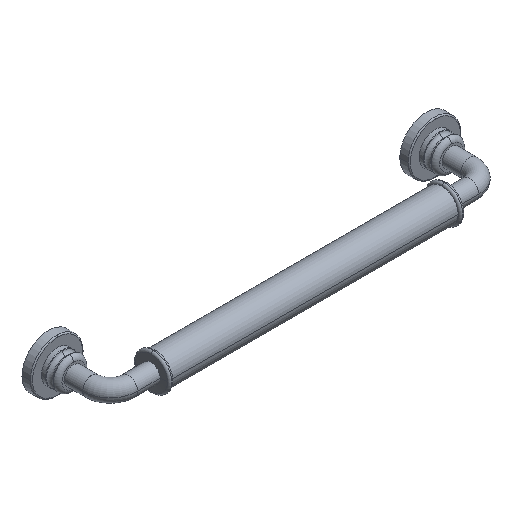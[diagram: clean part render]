
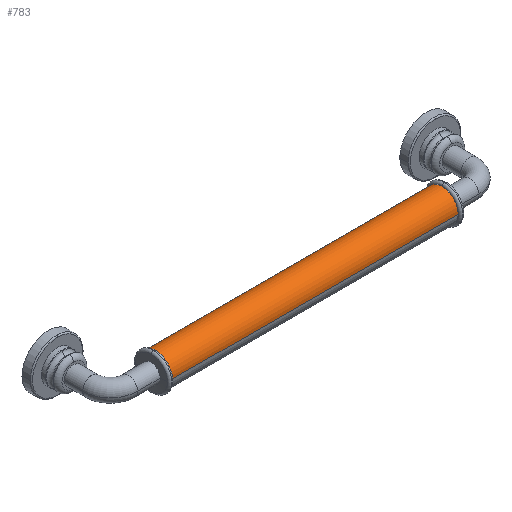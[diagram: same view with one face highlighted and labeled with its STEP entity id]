
A CAD part, isometric view. The second image highlights one B-rep face of the part: STEP entity #783.
In plain terms, the highlighted cylindrical face has radius 7 mm (diameter 14 mm), a partial arc.
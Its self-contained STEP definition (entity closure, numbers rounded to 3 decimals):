
#491 = EDGE_CURVE( '', #757, #955, #1441, .T. );
#757 = VERTEX_POINT( '', #1730 );
#783 = ADVANCED_FACE( '', ( #1761 ), #1762, .T. );
#797 = VERTEX_POINT( '', #1777 );
#955 = VERTEX_POINT( '', #1955 );
#1045 = VERTEX_POINT( '', #2060 );
#1079 = EDGE_CURVE( '', #1045, #797, #2097, .T. );
#1281 = EDGE_CURVE( '', #955, #1045, #2314, .T. );
#1335 = EDGE_CURVE( '', #757, #797, #2373, .T. );
#1441 = LINE( '', #2481, #2482 );
#1730 = CARTESIAN_POINT( '', ( 20., -34., 0. ) );
#1761 = FACE_OUTER_BOUND( '', #2884, .T. );
#1762 = CYLINDRICAL_SURFACE( '', #2885, 7. );
#1777 = CARTESIAN_POINT( '', ( 20., -20., 0. ) );
#1955 = CARTESIAN_POINT( '', ( 145., -34., 0. ) );
#2060 = CARTESIAN_POINT( '', ( 145., -20., 0. ) );
#2097 = LINE( '', #3308, #3309 );
#2314 = CIRCLE( '', #3667, 7. );
#2373 = CIRCLE( '', #3744, 7. );
#2481 = CARTESIAN_POINT( '', ( 82.5, -34., 0. ) );
#2482 = VECTOR( '', #3866, 1. );
#2884 = EDGE_LOOP( '', ( #4295, #4296, #4297, #4298 ) );
#2885 = AXIS2_PLACEMENT_3D( '', #4299, #4300, #4301 );
#3308 = CARTESIAN_POINT( '', ( 82.5, -20., 0. ) );
#3309 = VECTOR( '', #4806, 1. );
#3667 = AXIS2_PLACEMENT_3D( '', #5067, #5068, #5069 );
#3744 = AXIS2_PLACEMENT_3D( '', #5150, #5151, #5152 );
#3866 = DIRECTION( '', ( 1., 0., 0. ) );
#4295 = ORIENTED_EDGE( '', *, *, #1079, .T. );
#4296 = ORIENTED_EDGE( '', *, *, #1335, .F. );
#4297 = ORIENTED_EDGE( '', *, *, #491, .T. );
#4298 = ORIENTED_EDGE( '', *, *, #1281, .T. );
#4299 = CARTESIAN_POINT( '', ( 82.5, -27., 0. ) );
#4300 = DIRECTION( '', ( 1., 0., 0. ) );
#4301 = DIRECTION( '', ( 0., 1., 0. ) );
#4806 = DIRECTION( '', ( -1., 0., 0. ) );
#5067 = CARTESIAN_POINT( '', ( 145., -27., 0. ) );
#5068 = DIRECTION( '', ( -1., 0., 0. ) );
#5069 = DIRECTION( '', ( 0., 1., 0. ) );
#5150 = CARTESIAN_POINT( '', ( 20., -27., 0. ) );
#5151 = DIRECTION( '', ( -1., 0., 0. ) );
#5152 = DIRECTION( '', ( 0., 1., 0. ) );
